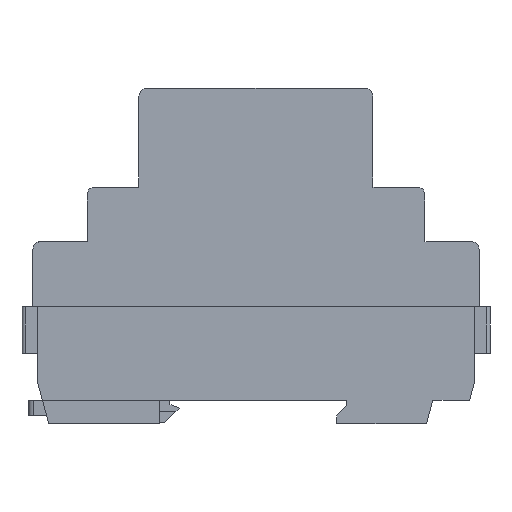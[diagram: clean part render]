
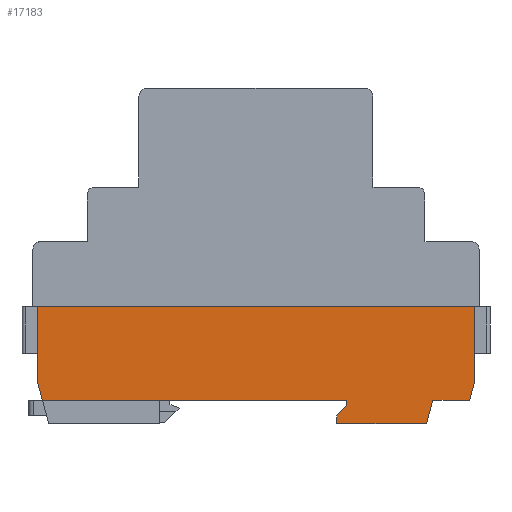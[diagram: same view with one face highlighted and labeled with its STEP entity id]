
A CAD part, front view. The second image highlights one B-rep face of the part: STEP entity #17183.
In plain terms, the highlighted planar face has unit normal (0, -1, 0).
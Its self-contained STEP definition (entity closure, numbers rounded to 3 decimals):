
#5969 = DIRECTION ( 'NONE',  ( 0., 0., 1. ) ) ;
#5970 = VECTOR ( 'NONE', #5969, 1000. ) ;
#5971 = CARTESIAN_POINT ( 'NONE',  ( 15.5, -22., -21. ) ) ;
#5972 = LINE ( 'NONE', #5971, #5970 ) ;
#5973 = CARTESIAN_POINT ( 'NONE',  ( 15.5, -22., -21. ) ) ;
#6094 = CARTESIAN_POINT ( 'NONE',  ( 17.5, -22., -19. ) ) ;
#6142 = DIRECTION ( 'NONE',  ( 0.707, 0., 0.707 ) ) ;
#6143 = VECTOR ( 'NONE', #6142, 1000. ) ;
#6144 = CARTESIAN_POINT ( 'NONE',  ( 17.5, -22., -19. ) ) ;
#6145 = LINE ( 'NONE', #6144, #6143 ) ;
#6150 = CARTESIAN_POINT ( 'NONE',  ( 15.5, -22., -22.5 ) ) ;
#6151 = DIRECTION ( 'NONE',  ( -1., 0., 0. ) ) ;
#6185 = CARTESIAN_POINT ( 'NONE',  ( -42., -22., -14.5 ) ) ;
#6186 = DIRECTION ( 'NONE',  ( -0.259, 0., 0.966 ) ) ;
#6187 = VECTOR ( 'NONE', #6186, 1000. ) ;
#6188 = CARTESIAN_POINT ( 'NONE',  ( -42., -22., -14.5 ) ) ;
#6189 = LINE ( 'NONE', #6188, #6187 ) ;
#6190 = CARTESIAN_POINT ( 'NONE',  ( -41.062, -22., -18. ) ) ;
#6215 = LINE ( 'NONE', #6264, #6263 ) ;
#6217 = CARTESIAN_POINT ( 'NONE',  ( 34., -22., -18. ) ) ;
#6262 = DIRECTION ( 'NONE',  ( -0.259, 0., -0.966 ) ) ;
#6263 = VECTOR ( 'NONE', #6262, 1000. ) ;
#6264 = CARTESIAN_POINT ( 'NONE',  ( 32.794, -22., -22.5 ) ) ;
#6334 = VECTOR ( 'NONE', #6151, 1000. ) ;
#6335 = CARTESIAN_POINT ( 'NONE',  ( 15.5, -22., -22.5 ) ) ;
#6336 = LINE ( 'NONE', #6335, #6334 ) ;
#6337 = CARTESIAN_POINT ( 'NONE',  ( 32.794, -22., -22.5 ) ) ;
#6755 = CARTESIAN_POINT ( 'NONE',  ( 42., -22., -14.5 ) ) ;
#6756 = DIRECTION ( 'NONE',  ( 0., 0., -1. ) ) ;
#6757 = VECTOR ( 'NONE', #6756, 1000. ) ;
#6758 = CARTESIAN_POINT ( 'NONE',  ( 42., -22., 0. ) ) ;
#6759 = LINE ( 'NONE', #6758, #6757 ) ;
#6760 = CARTESIAN_POINT ( 'NONE',  ( 42., -22., 0. ) ) ;
#6857 = CARTESIAN_POINT ( 'NONE',  ( 17.5, -22., -18. ) ) ;
#6858 = DIRECTION ( 'NONE',  ( 0., 0., 1. ) ) ;
#6859 = VECTOR ( 'NONE', #6858, 1000. ) ;
#6860 = CARTESIAN_POINT ( 'NONE',  ( 17.5, -22., -18. ) ) ;
#6861 = LINE ( 'NONE', #6860, #6859 ) ;
#8014 = DIRECTION ( 'NONE',  ( 1., 0., 0. ) ) ;
#8015 = VECTOR ( 'NONE', #8014, 1000. ) ;
#8016 = CARTESIAN_POINT ( 'NONE',  ( -42., -22., 0. ) ) ;
#8017 = LINE ( 'NONE', #8016, #8015 ) ;
#8235 = CARTESIAN_POINT ( 'NONE',  ( -42., -22., 0. ) ) ;
#8564 = CARTESIAN_POINT ( 'NONE',  ( 41.062, -22., -18. ) ) ;
#8565 = DIRECTION ( 'NONE',  ( -0.259, 0., -0.966 ) ) ;
#8566 = VECTOR ( 'NONE', #8565, 1000. ) ;
#8567 = CARTESIAN_POINT ( 'NONE',  ( 41.062, -22., -18. ) ) ;
#8568 = LINE ( 'NONE', #8567, #8566 ) ;
#8842 = DIRECTION ( 'NONE',  ( 0., 0., 1. ) ) ;
#8843 = VECTOR ( 'NONE', #8842, 1000. ) ;
#8844 = CARTESIAN_POINT ( 'NONE',  ( -42., -22., 0. ) ) ;
#8845 = LINE ( 'NONE', #8844, #8843 ) ;
#9182 = DIRECTION ( 'NONE',  ( 0., 0., -1. ) ) ;
#9183 = DIRECTION ( 'NONE',  ( 0., -1., 0. ) ) ;
#9184 = CARTESIAN_POINT ( 'NONE',  ( -42., -22., -22.5 ) ) ;
#9185 = AXIS2_PLACEMENT_3D ( 'NONE', #9184, #9183, #9182 ) ;
#9186 = PLANE ( 'NONE',  #9185 ) ;
#9271 = FACE_OUTER_BOUND ( 'NONE', #17184, .T. ) ;
#9414 = DIRECTION ( 'NONE',  ( -1., 0., 0. ) ) ;
#9415 = VECTOR ( 'NONE', #9414, 1000. ) ;
#9416 = CARTESIAN_POINT ( 'NONE',  ( 34., -22., -18. ) ) ;
#9418 = LINE ( 'NONE', #9416, #9415 ) ;
#9437 = DIRECTION ( 'NONE',  ( -1., 0., 0. ) ) ;
#9438 = VECTOR ( 'NONE', #9437, 1000. ) ;
#9439 = CARTESIAN_POINT ( 'NONE',  ( -18.5, -22., -18. ) ) ;
#9444 = LINE ( 'NONE', #9439, #9438 ) ;
#16617 = VERTEX_POINT ( 'NONE', #8235 ) ;
#16776 = EDGE_CURVE ( 'NONE', #16617, #29544, #8017, .T. ) ;
#17026 = EDGE_CURVE ( 'NONE', #29547, #17027, #8568, .T. ) ;
#17027 = VERTEX_POINT ( 'NONE', #8564 ) ;
#17085 = EDGE_CURVE ( 'NONE', #29347, #16617, #8845, .T. ) ;
#17183 = ADVANCED_FACE ( 'NONE', ( #9271 ), #9186, .T. ) ;
#17184 = EDGE_LOOP ( 'NONE', ( #17185, #17186, #17190, #17191, #17192, #17193, #17194, #17195, #17196, #17197, #17198, #17199 ) ) ;
#17185 = ORIENTED_EDGE ( 'NONE', *, *, #29346, .F. ) ;
#17186 = ORIENTED_EDGE ( 'NONE', *, *, #17263, .F. ) ;
#17190 = ORIENTED_EDGE ( 'NONE', *, *, #29469, .F. ) ;
#17191 = ORIENTED_EDGE ( 'NONE', *, *, #29327, .F. ) ;
#17192 = ORIENTED_EDGE ( 'NONE', *, *, #29256, .F. ) ;
#17193 = ORIENTED_EDGE ( 'NONE', *, *, #29321, .F. ) ;
#17194 = ORIENTED_EDGE ( 'NONE', *, *, #29273, .F. ) ;
#17195 = ORIENTED_EDGE ( 'NONE', *, *, #17271, .F. ) ;
#17196 = ORIENTED_EDGE ( 'NONE', *, *, #17026, .F. ) ;
#17197 = ORIENTED_EDGE ( 'NONE', *, *, #29546, .F. ) ;
#17198 = ORIENTED_EDGE ( 'NONE', *, *, #16776, .F. ) ;
#17199 = ORIENTED_EDGE ( 'NONE', *, *, #17085, .F. ) ;
#17263 = EDGE_CURVE ( 'NONE', #29470, #29344, #9444, .T. ) ;
#17271 = EDGE_CURVE ( 'NONE', #17027, #29268, #9418, .T. ) ;
#29239 = VERTEX_POINT ( 'NONE', #6094 ) ;
#29254 = VERTEX_POINT ( 'NONE', #5973 ) ;
#29256 = EDGE_CURVE ( 'NONE', #29322, #29254, #5972, .T. ) ;
#29268 = VERTEX_POINT ( 'NONE', #6217 ) ;
#29273 = EDGE_CURVE ( 'NONE', #29268, #29319, #6215, .T. ) ;
#29319 = VERTEX_POINT ( 'NONE', #6337 ) ;
#29321 = EDGE_CURVE ( 'NONE', #29319, #29322, #6336, .T. ) ;
#29322 = VERTEX_POINT ( 'NONE', #6150 ) ;
#29327 = EDGE_CURVE ( 'NONE', #29254, #29239, #6145, .T. ) ;
#29344 = VERTEX_POINT ( 'NONE', #6190 ) ;
#29346 = EDGE_CURVE ( 'NONE', #29344, #29347, #6189, .T. ) ;
#29347 = VERTEX_POINT ( 'NONE', #6185 ) ;
#29469 = EDGE_CURVE ( 'NONE', #29239, #29470, #6861, .T. ) ;
#29470 = VERTEX_POINT ( 'NONE', #6857 ) ;
#29544 = VERTEX_POINT ( 'NONE', #6760 ) ;
#29546 = EDGE_CURVE ( 'NONE', #29544, #29547, #6759, .T. ) ;
#29547 = VERTEX_POINT ( 'NONE', #6755 ) ;
